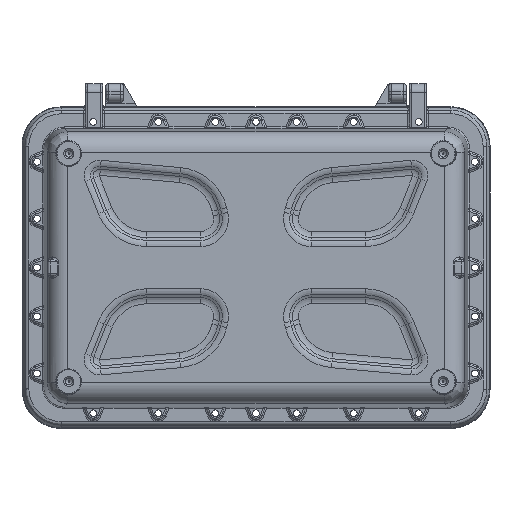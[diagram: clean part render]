
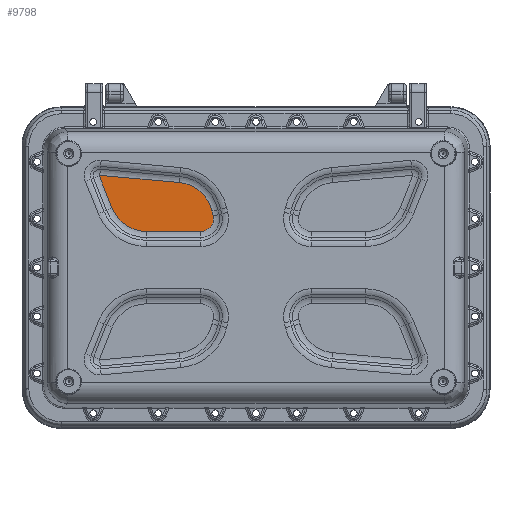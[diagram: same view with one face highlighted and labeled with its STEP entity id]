
A CAD part, front view. The second image highlights one B-rep face of the part: STEP entity #9798.
In plain terms, the highlighted planar face has unit normal (0, -1, 0).
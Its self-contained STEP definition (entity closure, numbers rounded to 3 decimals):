
#9798=ADVANCED_FACE('',(#38966),#38968,.T.);
#38966=FACE_BOUND('',#38967,.T.);
#38967=EDGE_LOOP('',(#69319,#69320,#69321,#69322,#69323,#69324,#69325,#69326));
#38968=PLANE('',#38969);
#38969=AXIS2_PLACEMENT_3D('',#38970,#38971,#38972);
#38970=CARTESIAN_POINT('',(0.,-191.,0.));
#38971=DIRECTION('',(0.,-1.,0.));
#38972=DIRECTION('',(1.,0.,0.));
#69319=ORIENTED_EDGE('',*,*,#77673,.T.);
#69320=ORIENTED_EDGE('',*,*,#77674,.T.);
#69321=ORIENTED_EDGE('',*,*,#77675,.T.);
#69322=ORIENTED_EDGE('',*,*,#77676,.T.);
#69323=ORIENTED_EDGE('',*,*,#77677,.T.);
#69324=ORIENTED_EDGE('',*,*,#77678,.T.);
#69325=ORIENTED_EDGE('',*,*,#77679,.T.);
#69326=ORIENTED_EDGE('',*,*,#77680,.T.);
#77673=EDGE_CURVE('',#84832,#84833,#84834,.T.);
#77674=EDGE_CURVE('',#84833,#84835,#84836,.T.);
#77675=EDGE_CURVE('',#84835,#84837,#84838,.T.);
#77676=EDGE_CURVE('',#84837,#84839,#84840,.T.);
#77677=EDGE_CURVE('',#84839,#84841,#84842,.T.);
#77678=EDGE_CURVE('',#84841,#84843,#84844,.T.);
#77679=EDGE_CURVE('',#84843,#84845,#84846,.T.);
#77680=EDGE_CURVE('',#84845,#84832,#84847,.T.);
#84832=VERTEX_POINT('',#117156);
#84833=VERTEX_POINT('',#117157);
#84834=CIRCLE('',#117158,15.588);
#84835=VERTEX_POINT('',#117162);
#84836=LINE('',#117163,#117164);
#84837=VERTEX_POINT('',#117166);
#84838=CIRCLE('',#117167,45.588);
#84839=VERTEX_POINT('',#117171);
#84840=LINE('',#117172,#117173);
#84841=VERTEX_POINT('',#117175);
#84842=CIRCLE('',#117176,0.588);
#84843=VERTEX_POINT('',#117180);
#84844=LINE('',#117181,#117182);
#84845=VERTEX_POINT('',#117184);
#84846=CIRCLE('',#117185,45.588);
#84847=LINE('',#117189,#117190);
#117156=CARTESIAN_POINT('',(-67.878,-191.,44.412));
#117157=CARTESIAN_POINT('',(-52.704,-191.,63.57));
#117158=AXIS2_PLACEMENT_3D('',#117159,#117160,#117161);
#117159=CARTESIAN_POINT('',(-67.878,-191.,60.));
#117160=DIRECTION('',(0.,-1.,0.));
#117161=DIRECTION('',(0.,0.,-1.));
#117162=CARTESIAN_POINT('',(-54.124,-191.,69.603));
#117163=CARTESIAN_POINT('',(-52.704,-191.,63.57));
#117164=VECTOR('',#117165,1.);
#117165=DIRECTION('',(-0.229,0.,0.973));
#117166=CARTESIAN_POINT('',(-94.373,-191.,104.563));
#117167=AXIS2_PLACEMENT_3D('',#117168,#117169,#117170);
#117168=CARTESIAN_POINT('',(-98.5,-191.,59.162));
#117169=DIRECTION('',(0.,-1.,0.));
#117170=DIRECTION('',(0.973,0.,0.229));
#117171=CARTESIAN_POINT('',(-191.929,-191.,113.432));
#117172=CARTESIAN_POINT('',(-94.373,-191.,104.563));
#117173=VECTOR('',#117174,1.);
#117174=DIRECTION('',(-0.996,0.,0.091));
#117175=CARTESIAN_POINT('',(-192.529,-191.,112.627));
#117176=AXIS2_PLACEMENT_3D('',#117177,#117178,#117179);
#117177=CARTESIAN_POINT('',(-191.983,-191.,112.846));
#117178=DIRECTION('',(0.,-1.,0.));
#117179=DIRECTION('',(0.091,0.,0.996));
#117180=CARTESIAN_POINT('',(-176.706,-191.,73.069));
#117181=CARTESIAN_POINT('',(-192.529,-191.,112.627));
#117182=VECTOR('',#117183,1.);
#117183=DIRECTION('',(0.371,0.,-0.928));
#117184=CARTESIAN_POINT('',(-134.378,-191.,44.412));
#117185=AXIS2_PLACEMENT_3D('',#117186,#117187,#117188);
#117186=CARTESIAN_POINT('',(-134.378,-191.,90.));
#117187=DIRECTION('',(0.,-1.,0.));
#117188=DIRECTION('',(-0.928,0.,-0.371));
#117189=CARTESIAN_POINT('',(-134.378,-191.,44.412));
#117190=VECTOR('',#117191,1.);
#117191=DIRECTION('',(1.,0.,0.));
